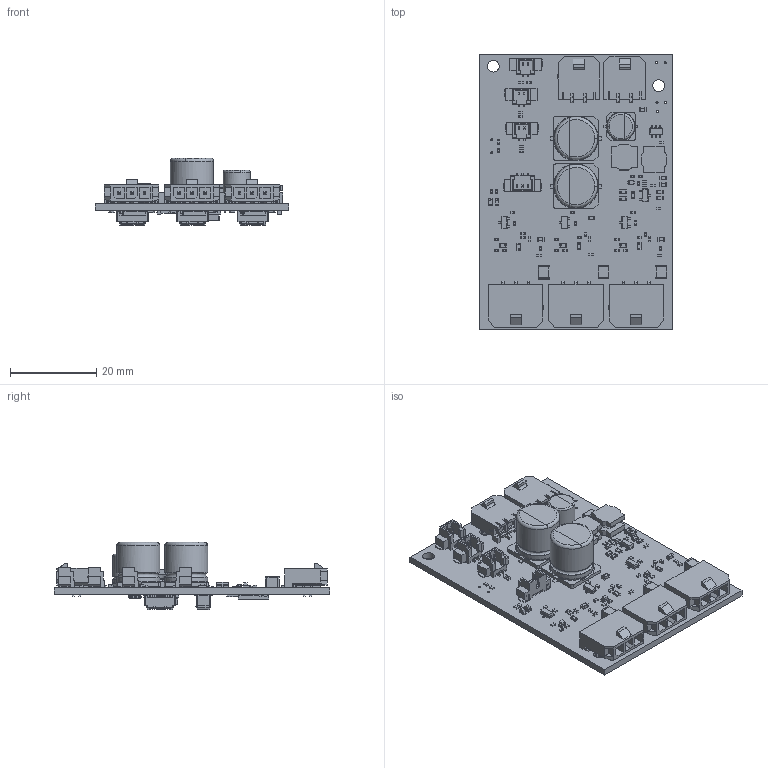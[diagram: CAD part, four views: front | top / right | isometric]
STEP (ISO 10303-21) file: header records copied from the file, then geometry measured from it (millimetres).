
FILE_DESCRIPTION(('KiCad electronic assembly'),'2;1');
FILE_NAME('elec_Ventouse_3d-A3.step','2024-12-23T16:29:29',('Pcbnew'),( 'Kicad'),'Open CASCADE STEP processor 7.6','KiCad to STEP converter' ,'Unknown');
FILE_SCHEMA(('AUTOMOTIVE_DESIGN { 1 0 10303 214 1 1 1 1 }'));
Length unit declared in the file: millimetre
Products named in the file (42): elec_Ventouse_3d-A3 1; R_0402_1005Metric; Molex_PicoBlade_53398-0271_1x02-1MP_P1.25mm_Vertical; Molex_53398_0271; C_0402_1005Metric; R_0603_1608Metric; C_0603_1608Metric; 43650-0210; 43650-0210_1; C_1210_3225Metric; D_SOD-523; D_SOD_523; L_Bourns_SRN6045TA; CP_Elec_10x10.5; CP_Elec_10x105; Molex_PicoBlade_53398-0371_1x03-1MP_P1.25mm_Vertical; Molex_53398_0371; SOT-23; SOT_23; 43650-0310; 436500310wbm000_01; LED_0603_1608Metric; TSOT-23-6; TSOT_23_6; CP_Elec_6.3x7.7; CP_Elec_63x77; VQFN-40_5x7mm; QFN_ASM; Molex_539160208; 539160208; R_2512_6332Metric; D_SMA; elec_Ventouse_3d PCB
Assembly tree (153 placements, depth 3):
  elec_Ventouse_3d-A3 1
    R_0402_1005Metric  x43
      R_0402_1005Metric
    Molex_PicoBlade_53398-0271_1x02-1MP_P1.25mm_Vertical  x3
      Molex_53398_0271
    C_0402_1005Metric  x30
      C_0402_1005Metric
    R_0603_1608Metric  x8
      R_0603_1608Metric
    C_0603_1608Metric  x11
      C_0603_1608Metric
    43650-0210  x2
      43650-0210_1
    C_1210_3225Metric  x3
      C_1210_3225Metric
    D_SOD-523
      D_SOD_523
    L_Bourns_SRN6045TA  x2
      L_Bourns_SRN6045TA
    CP_Elec_10x10.5  x2
      CP_Elec_10x105
    Molex_PicoBlade_53398-0371_1x03-1MP_P1.25mm_Vertical
      Molex_53398_0371
    SOT-23  x4
      SOT_23
    43650-0310  x3
      436500310wbm000_01
    LED_0603_1608Metric  x5
      LED_0603_1608Metric
    TSOT-23-6  x2
      TSOT_23_6
    CP_Elec_6.3x7.7
      CP_Elec_63x77
    VQFN-40_5x7mm  x3
      QFN_ASM
    Molex_539160208  x4
      539160208
    R_2512_6332Metric  x2
      R_2512_6332Metric
    D_SMA  x2
      D_SMA
    elec_Ventouse_3d PCB
Bounding box: 45 x 64 x 15.65 mm (x, y, z)
Volume: 8745.9 mm3; surface area: 14067.3 mm2
Topology: 270 solids, 270 shells, 9489 faces, 25641 edges, 17279 vertices
Faces by surface type: plane 6749, cylinder 2499, bspline 220, torus 14, cone 4, revolution 3
Full cylindrical faces by diameter (mm): 0.5 x7, 2.54 x10, 2.7 x2, 6.3 x2, 10 x4
Entity records: 176925 total; most frequent: CARTESIAN_POINT 32557, DIRECTION 25806, LINE 17615, VECTOR 17615, ORIENTED_EDGE 13456, PCURVE 13456, DEFINITIONAL_REPRESENTATION 13456, EDGE_CURVE 6728
